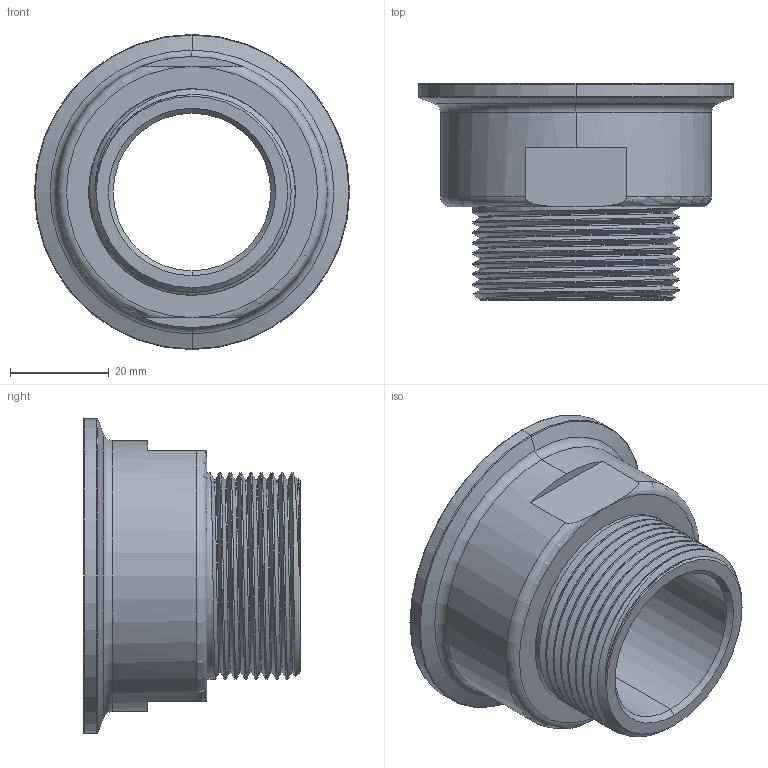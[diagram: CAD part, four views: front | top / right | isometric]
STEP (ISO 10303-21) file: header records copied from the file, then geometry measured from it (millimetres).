
FILE_DESCRIPTION((''),'2;1');
FILE_NAME('76803064600','2021-06-03T14:05:09',('alfio.taboni'),('CDM Tecnoconsulting'),'CREO PARAMETRIC BY PTC INC, 2020053','CREO PARAMETRIC BY PTC INC, 2020053','');
FILE_SCHEMA(('CONFIG_CONTROL_DESIGN','SHAPE_APPEARANCE_LAYERS_GROUPS'));
Length unit declared in the file: millimetre
Products named in the file (1): 76803064600
Bounding box: 64 x 44 x 64 mm (x, y, z)
Volume: 41282.8 mm3; surface area: 16997.4 mm2
Topology: 1 solids, 1 shells, 75 faces, 175 edges, 104 vertices
Faces by surface type: cylinder 24, torus 20, cone 12, bspline 10, plane 9
Entity records: 3897 total; most frequent: CARTESIAN_POINT 2210, ORIENTED_EDGE 350, DIRECTION 326, EDGE_CURVE 175, AXIS2_PLACEMENT_3D 137, VERTEX_POINT 104, EDGE_LOOP 79, FACE_OUTER_BOUND 75
